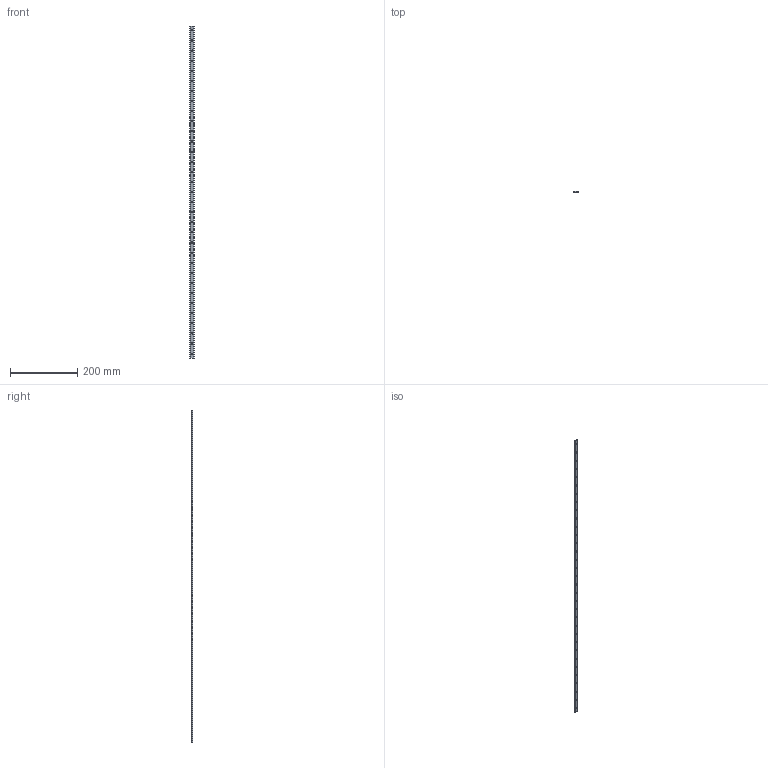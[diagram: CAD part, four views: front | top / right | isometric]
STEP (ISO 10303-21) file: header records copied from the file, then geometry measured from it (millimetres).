
FILE_DESCRIPTION(('STEP AP203'),'1');
FILE_NAME('slide_ms12l986p3.stp','2022-07-01T05:52:49',('TraceParts'),('TraceParts S.A.'),'Spatial InterOp 3D',' ',' ');
FILE_SCHEMA(('CONFIG_CONTROL_DESIGN'));
Length unit declared in the file: millimetre
Products named in the file (1): 1
Bounding box: 12.39 x 3.2 x 986 mm (x, y, z)
Volume: 32971.2 mm3; surface area: 27553.9 mm2
Topology: 1 solids, 1 shells, 78 faces, 228 edges, 152 vertices
Faces by surface type: cylinder 70, plane 8
Entity records: 2848 total; most frequent: DIRECTION 526, CARTESIAN_POINT 459, ORIENTED_EDGE 456, EDGE_CURVE 228, AXIS2_PLACEMENT_3D 219, VERTEX_POINT 152, EDGE_LOOP 144, CIRCLE 140
